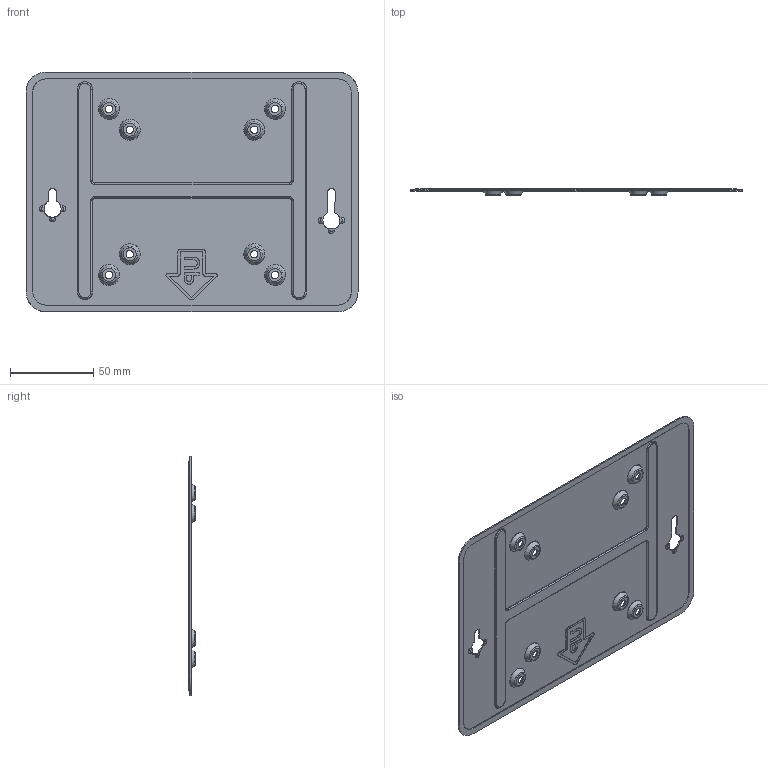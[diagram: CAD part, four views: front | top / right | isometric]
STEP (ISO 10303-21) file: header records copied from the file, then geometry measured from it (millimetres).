
FILE_DESCRIPTION (( 'STEP AP203' ), '1' );
FILE_NAME ('NUC_FB_VESA Bracket.STEP', '2020-08-12T22:38:29', ( '' ), ( '' ), 'SwSTEP 2.0', 'SolidWorks 2019', '' );
FILE_SCHEMA (( 'CONFIG_CONTROL_DESIGN' ));
Length unit declared in the file: millimetre
Products named in the file (1): NUC_FB_VESA Bracket
Bounding box: 200 x 3.8 x 144.4 mm (x, y, z)
Volume: 23857 mm3; surface area: 59764 mm2
Topology: 6 solids, 6 shells, 410 faces, 1050 edges, 664 vertices
Faces by surface type: plane 152, bspline 138, cylinder 82, cone 32, torus 6
Full cylindrical faces by diameter (mm): 4.5 x8
Entity records: 21437 total; most frequent: CARTESIAN_POINT 13084, ORIENTED_EDGE 1908, DIRECTION 1249, EDGE_CURVE 954, VERTEX_POINT 632, EDGE_LOOP 516, FACE_OUTER_BOUND 450, AXIS2_PLACEMENT_3D 420
